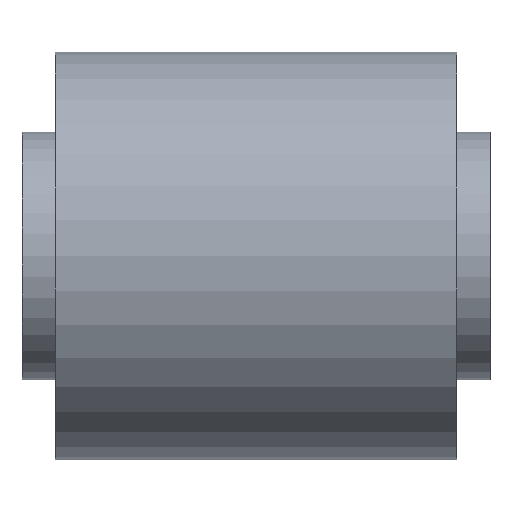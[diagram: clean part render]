
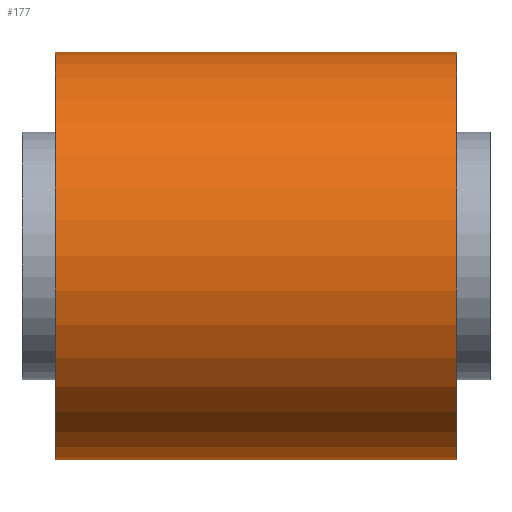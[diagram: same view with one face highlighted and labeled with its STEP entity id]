
A CAD part, top view. The second image highlights one B-rep face of the part: STEP entity #177.
In plain terms, the highlighted cylindrical face has radius 37 mm (diameter 74 mm), a partial arc.
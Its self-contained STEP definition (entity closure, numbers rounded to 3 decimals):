
#11=CARTESIAN_POINT('',(36.5,0.,0.));
#12=DIRECTION('',(1.,0.,0.));
#13=DIRECTION('',(0.,1.,0.));
#14=AXIS2_PLACEMENT_3D('',#11,#12,#13);
#16=DIRECTION('',(-1.,0.,0.));
#17=VECTOR('',#16,73.);
#18=CARTESIAN_POINT('',(36.5,37.,0.));
#19=LINE('',#18,#17);
#20=DIRECTION('',(-1.,0.,0.));
#21=VECTOR('',#20,73.);
#22=CARTESIAN_POINT('',(36.5,-37.,0.));
#23=LINE('',#22,#21);
#34=CARTESIAN_POINT('',(-36.5,0.,0.));
#35=DIRECTION('',(1.,0.,0.));
#36=DIRECTION('',(0.,1.,0.));
#37=AXIS2_PLACEMENT_3D('',#34,#35,#36);
#113=CARTESIAN_POINT('',(36.5,37.,0.));
#114=CARTESIAN_POINT('',(-36.5,37.,0.));
#115=VERTEX_POINT('',#113);
#116=VERTEX_POINT('',#114);
#117=CARTESIAN_POINT('',(36.5,-37.,0.));
#118=CARTESIAN_POINT('',(-36.5,-37.,0.));
#119=VERTEX_POINT('',#117);
#120=VERTEX_POINT('',#118);
#163=CARTESIAN_POINT('',(-46.75,0.,0.));
#164=DIRECTION('',(1.,0.,0.));
#165=DIRECTION('',(0.,-1.,0.));
#166=AXIS2_PLACEMENT_3D('',#163,#164,#165);
#167=CYLINDRICAL_SURFACE('',#166,37.);
#169=ORIENTED_EDGE('',*,*,#168,.F.);
#170=ORIENTED_EDGE('',*,*,#150,.T.);
#172=ORIENTED_EDGE('',*,*,#171,.T.);
#174=ORIENTED_EDGE('',*,*,#173,.F.);
#175=EDGE_LOOP('',(#169,#170,#172,#174));
#176=FACE_OUTER_BOUND('',#175,.F.);
#177=ADVANCED_FACE('',(#176),#167,.T.);
#15=CIRCLE('',#14,37.);
#38=CIRCLE('',#37,37.);
#150=EDGE_CURVE('',#115,#119,#15,.T.);
#168=EDGE_CURVE('',#115,#116,#19,.T.);
#171=EDGE_CURVE('',#119,#120,#23,.T.);
#173=EDGE_CURVE('',#116,#120,#38,.T.);
